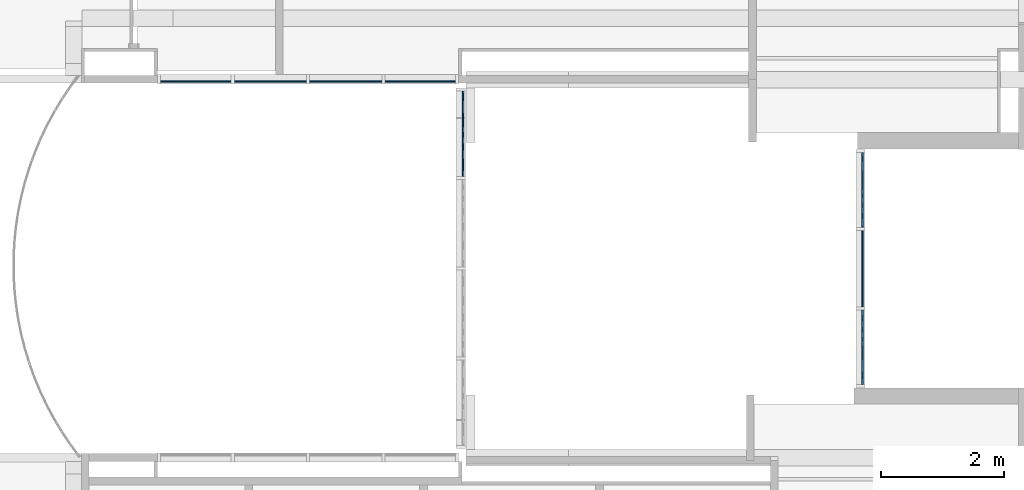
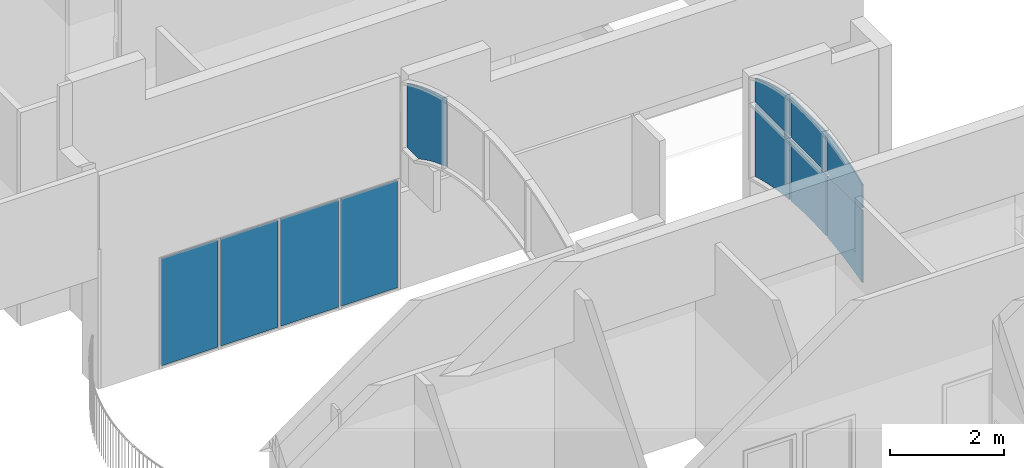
# One storey, part 5 of 47: 11 plates, 3 elements without a shape of their own.
"""IFC2X3 building model written with IfcOpenShell, lengths in metres."""

from ifc_helpers import new_model, entity, si_unit, converted_unit, frame, frame_2d, origin, origin_2d_with_axis, place, context, project, spatial, polyline, circle_curve, parameter, trimmed, segment, composite_curve, rectangle, outline, extrude, face_set, surface_model, source, transform, mapped, material, type_object, type_shapes, element, aggregate, save


model = new_model("IFC2X3")

# Units and contexts
model_context = context("Model", 3, precision=1e-09, world=origin())
plan_context = context("Plan", 3, precision=1e-09, world=origin())
ifc_project = project(units=[si_unit("LENGTHUNIT", "METRE"), si_unit("AREAUNIT", "SQUARE_METRE"), si_unit("VOLUMEUNIT", "CUBIC_METRE"), converted_unit("PLANEANGLEUNIT", "DEGREE", entity("IfcRatioMeasure", 0.01745329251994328), si_unit("PLANEANGLEUNIT", "RADIAN"), dimensions=[0, 0, 0, 0, 0, 0, 0]), si_unit("TIMEUNIT", "SECOND")], contexts=[model_context, plan_context])

# Site, building, storey
site_placement = place(None, origin())
site = spatial("IfcSite", under=ifc_project, at=site_placement, Name="Default", CompositionType="ELEMENT")
building_placement = place(site_placement, origin())
building = spatial("IfcBuilding", under=site, at=building_placement, CompositionType="ELEMENT")
storey_placement = place(building_placement, frame((0.0, 0.0, 4.570000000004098)))
storey = spatial("IfcBuildingStorey", under=building, at=storey_placement, Name="Second Floor", CompositionType="ELEMENT", Elevation=4.570000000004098)

# Curtain wall, plates
curtain_wall_1_placement = place(storey_placement, origin())
curtain_wall_1 = element("IfcCurtainWall", 1, at=curtain_wall_1_placement, inside=storey, Name="Curtain Wall:Storefront", ObjectType="Curtain Wall:Storefront")
ifc_material = material(Name="Glass")
plate_type_1 = type_object("IfcPlateType", Name="Glazed", PredefinedType="CURTAIN_PANEL")
shared_shape_1 = source(origin(), model_context, "Body", "SweptSolid", [
    extrude(rectangle(XDim=0.025, YDim=1.147693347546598, at=origin_2d_with_axis()), frame((0.0, 0.037, 0.0), z_axis=(0.0, 0.0, 1.0), x_axis=(0.0, 1.0, 0.0)), (0.0, 0.0, 1.0), 2.3),
])
type_shapes(plate_type_1, [shared_shape_1])
plate_1_placement = place(storey_placement, frame((-9.605573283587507, 34.7718015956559, 0.05), z_axis=(0.0, 0.0, 1.0), x_axis=(-1.0, 0.0, 0.0)))
plate_1 = element("IfcPlate", 2, at=plate_1_placement, type_object=plate_type_1, material=ifc_material, Name="System Panel:Glazed:Glazed", ObjectType="Glazed", context=model_context, shape_type="MappedRepresentation", body=[
    mapped(shared_shape_1, transform((0.0, 0.0, 0.0), scale=1.0)),
])
plate_2_placement = place(storey_placement, frame((-13.2486533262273, 34.77180159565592, 0.05), z_axis=(0.0, 0.0, 1.0), x_axis=(-1.0, 0.0, 0.0)))
plate_2 = element("IfcPlate", 3, at=plate_2_placement, type_object=plate_type_1, material=ifc_material, Name="System Panel:Glazed:Glazed", ObjectType="Glazed", context=model_context, shape_type="MappedRepresentation", body=[
    mapped(shared_shape_1, transform((0.0, 0.0, 0.0), scale=1.0)),
])
plate_type_2 = type_object("IfcPlateType", Name="Glazed", PredefinedType="CURTAIN_PANEL")
shared_shape_2 = source(origin(), model_context, "Body", "SweptSolid", [
    extrude(rectangle(XDim=0.025, YDim=1.172693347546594, at=origin_2d_with_axis()), frame((0.0, 0.037, 0.0), z_axis=(0.0, 0.0, 1.0), x_axis=(0.0, 1.0, 0.0)), (0.0, 0.0, 1.0), 2.3),
])
type_shapes(plate_type_2, [shared_shape_2])
plate_3_placement = place(storey_placement, frame((-10.8157666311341, 34.77180159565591, 0.05), z_axis=(0.0, 0.0, 1.0), x_axis=(-1.0, 0.0, 0.0)))
plate_3 = element("IfcPlate", 4, at=plate_3_placement, type_object=plate_type_2, material=ifc_material, Name="System Panel:Glazed:Glazed", ObjectType="Glazed", context=model_context, shape_type="MappedRepresentation", body=[
    mapped(shared_shape_2, transform((0.0, 0.0, 0.0), scale=1.0)),
])
plate_4_placement = place(storey_placement, frame((-12.0384599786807, 34.77180159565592, 0.05), z_axis=(0.0, 0.0, 1.0), x_axis=(-1.0, 0.0, 0.0)))
plate_4 = element("IfcPlate", 5, at=plate_4_placement, type_object=plate_type_2, material=ifc_material, Name="System Panel:Glazed:Glazed", ObjectType="Glazed", context=model_context, shape_type="MappedRepresentation", body=[
    mapped(shared_shape_2, transform((0.0, 0.0, 0.0), scale=1.0)),
])
aggregate(curtain_wall_1, [plate_1, plate_3, plate_4, plate_2])

curtain_wall_2_placement = place(storey_placement, origin())
curtain_wall_2 = element("IfcCurtainWall", 6, at=curtain_wall_2_placement, inside=storey, Name="Curtain Wall:Storefront", ObjectType="Curtain Wall:Storefront")
plate_type_3 = type_object("IfcPlateType", Name="Glazed", PredefinedType="CURTAIN_PANEL")
shared_shape_3 = source(origin(), model_context, "Body", "SweptSolid", [
    extrude(outline(composite_curve([segment(polyline([(-0.8340070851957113, -0.6075000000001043), (0.7188856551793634, -0.6075000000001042)]), True, "CONTINUOUS"), segment(polyline([(0.7188856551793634, -0.6075000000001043), (0.7188856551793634, 0.6075000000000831)]), True, "CONTINUOUS"), segment(polyline([(0.7188856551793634, 0.6075000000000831), (-0.60376422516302, 0.6075000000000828)]), True, "CONTINUOUS"), segment(trimmed(circle_curve(frame_2d((-7.460299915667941, 1.277499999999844), x_axis=(0.9591411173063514, -0.2829281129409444)), 6.889193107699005), [parameter(0.5554313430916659)], [parameter(10.85398953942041)], True, "PARAMETER"), False, "CONTINUOUS")], self_intersect=False)), frame((0.0, 0.02450000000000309, 0.8340070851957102), z_axis=(0.0, 1.0, 0.0), x_axis=(0.0, 0.0, 1.0)), (0.0, 0.0, 1.0), 0.025),
])
type_shapes(plate_type_3, [shared_shape_3])
plate_5_placement = place(storey_placement, frame((-2.454499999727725, 32.97249999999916, 0.8221072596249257), z_axis=(0.0, 0.0, 1.0), x_axis=(0.0, -1.0, 0.0)))
plate_5 = element("IfcPlate", 7, at=plate_5_placement, type_object=plate_type_3, material=ifc_material, Name="System Panel:Glazed:Glazed", ObjectType="Glazed", context=model_context, shape_type="MappedRepresentation", body=[
    mapped(shared_shape_3, transform((0.0, 0.0, 0.0), scale=1.0)),
])
plate_type_4 = type_object("IfcPlateType", Name="Glazed", PredefinedType="CURTAIN_PANEL")
shared_shape_4 = source(origin(), model_context, "Body", "SurfaceModel", [
    surface_model("IfcFaceBasedSurfaceModel", [(0.001595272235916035, 0.0, 0.001595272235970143), (0.001595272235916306, 0.0, 1.319543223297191), (1.241595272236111, 0.0, 1.319543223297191), (1.241595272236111, 0.0, 0.001595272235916), (0.9939177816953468, 0.0, 0.01948242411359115), (0.7457565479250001, 0.0, 0.02843181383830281), (0.4974339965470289, 0.0, 0.02843181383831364), (0.2492727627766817, 0.0, 0.01948242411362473), (0.001595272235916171, 0.025, 0.00159527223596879), (0.2492727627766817, 0.025, 0.01948242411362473), (0.4974339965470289, 0.025, 0.02843181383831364), (0.7457565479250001, 0.025, 0.02843181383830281), (0.9939177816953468, 0.025, 0.01948242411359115), (1.241595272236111, 0.025, 0.001595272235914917), (1.241595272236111, 0.025, 1.319543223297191), (0.001595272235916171, 0.025, 1.319543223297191)], [face_set([[[0, 1, 2, 3, 4, 5, 6, 7]], [[8, 9, 10, 11, 12, 13, 14, 15]], [[10, 6, 7, 9]], [[7, 0, 8, 9]], [[6, 10, 11, 5]], [[12, 4, 5, 11]], [[13, 3, 4, 12]], [[2, 3, 13, 14]], [[1, 15, 14, 2]], [[0, 8, 15, 1]]])]),
])
type_shapes(plate_type_4, [shared_shape_4])
plate_6_placement = place(storey_placement, frame((-2.429999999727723, 32.31659527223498, 1.055456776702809), z_axis=(0.0, 0.0, 1.0), x_axis=(0.0, -1.0, 0.0)))
plate_6 = element("IfcPlate", 8, at=plate_6_placement, type_object=plate_type_4, material=ifc_material, Name="System Panel:Glazed:Glazed", ObjectType="Glazed", context=model_context, shape_type="MappedRepresentation", body=[
    mapped(shared_shape_4, transform((0.0, 0.0, 0.0), scale=1.0)),
])
plate_type_5 = type_object("IfcPlateType", Name="Glazed", PredefinedType="CURTAIN_PANEL")
shared_shape_5 = source(origin(), model_context, "Body", "SweptSolid", [
    extrude(outline(composite_curve([segment(polyline([(-0.6037642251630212, -0.6075000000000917), (0.718885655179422, -0.6075000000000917)]), True, "CONTINUOUS"), segment(polyline([(0.718885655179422, -0.6075000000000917), (0.718885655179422, 0.6075000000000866)]), True, "CONTINUOUS"), segment(polyline([(0.718885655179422, 0.6075000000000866), (-0.8340070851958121, 0.6075000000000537)]), True, "CONTINUOUS"), segment(trimmed(circle_curve(frame_2d((-7.460299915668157, -1.277500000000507), x_axis=(0.9955429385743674, 0.09430937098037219)), 6.889193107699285), [parameter(0.169480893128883)], [parameter(10.46803908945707)], True, "PARAMETER"), False, "CONTINUOUS")], self_intersect=False)), frame((0.0, 0.02450000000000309, 0.8340070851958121), z_axis=(0.0, 1.0, 0.0), x_axis=(0.0, 0.0, 1.0)), (0.0, 0.0, 1.0), 0.025),
])
type_shapes(plate_type_5, [shared_shape_5])
plate_7_placement = place(storey_placement, frame((-2.454499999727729, 30.41749999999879, 0.8221072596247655), z_axis=(0.0, 0.0, 1.0), x_axis=(0.0, -1.0, 0.0)))
plate_7 = element("IfcPlate", 9, at=plate_7_placement, type_object=plate_type_5, material=ifc_material, Name="System Panel:Glazed:Glazed", ObjectType="Glazed", context=model_context, shape_type="MappedRepresentation", body=[
    mapped(shared_shape_5, transform((0.0, 0.0, 0.0), scale=1.0)),
])
plate_type_6 = type_object("IfcPlateType", Name="Glazed", PredefinedType="CURTAIN_PANEL")
shared_shape_6 = source(origin(), model_context, "Body", "SweptSolid", [
    extrude(outline(composite_curve([segment(polyline([(-0.341940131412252, -0.6075000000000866), (0.1648175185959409, -0.6075000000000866)]), True, "CONTINUOUS"), segment(trimmed(circle_curve(frame_2d((-4.039664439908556, 1.277500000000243), x_axis=(0.9903651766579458, -0.1384803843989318)), 4.607699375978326), [parameter(343.811745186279)], [parameter(359.5989700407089)], True, "PARAMETER"), True, "CONTINUOUS"), segment(polyline([(0.5190627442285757, 0.6075000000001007), (-0.341940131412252, 0.6075000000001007)]), True, "CONTINUOUS"), segment(polyline([(-0.341940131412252, 0.6075000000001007), (-0.341940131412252, -0.6075000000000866)]), True, "CONTINUOUS")], self_intersect=False)), frame((0.0, 0.02449999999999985, 0.341940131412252), z_axis=(0.0, 1.0, 0.0), x_axis=(0.0, 0.0, 1.0)), (0.0, 0.0, 1.0), 0.025),
])
type_shapes(plate_type_6, [shared_shape_6])
plate_8_placement = place(storey_placement, frame((-2.454499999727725, 32.97249999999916, 2.424999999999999), z_axis=(0.0, 0.0, 1.0), x_axis=(0.0, -1.0, 0.0)))
plate_8 = element("IfcPlate", 10, at=plate_8_placement, type_object=plate_type_6, material=ifc_material, Name="System Panel:Glazed:Glazed", ObjectType="Glazed", context=model_context, shape_type="MappedRepresentation", body=[
    mapped(shared_shape_6, transform((0.0, 0.0, 0.0), scale=1.0)),
])
plate_type_7 = type_object("IfcPlateType", Name="Glazed", PredefinedType="CURTAIN_PANEL")
shared_shape_7 = source(origin(), model_context, "Body", "SweptSolid", [
    extrude(rectangle(XDim=0.8680717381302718, YDim=0.025, at=frame_2d((0.0, 0.0), x_axis=(0.0, 1.0))), frame((-0.6200000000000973, 0.03699999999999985, 0.4340358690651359), z_axis=(1.0, 0.0, 0.0), x_axis=(0.0, 1.0, 0.0)), (0.0, 0.0, 1.0), 1.240000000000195),
])
type_shapes(plate_type_7, [shared_shape_7])
plate_9_placement = place(storey_placement, frame((-2.454499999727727, 31.69499999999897, 2.424999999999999), z_axis=(0.0, 0.0, 1.0), x_axis=(0.0, -1.0, 0.0)))
plate_9 = element("IfcPlate", 11, at=plate_9_placement, type_object=plate_type_7, material=ifc_material, Name="System Panel:Glazed:Glazed", ObjectType="Glazed", context=model_context, shape_type="MappedRepresentation", body=[
    mapped(shared_shape_7, transform((0.0, 0.0, 0.0), scale=1.0)),
])
plate_type_8 = type_object("IfcPlateType", Name="Glazed", PredefinedType="CURTAIN_PANEL")
shared_shape_8 = source(origin(), model_context, "Body", "SweptSolid", [
    extrude(outline(composite_curve([segment(polyline([(-0.3419401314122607, 0.6075000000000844), (-0.3419401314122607, -0.6075000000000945)]), True, "CONTINUOUS"), segment(polyline([(-0.3419401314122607, -0.6075000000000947), (0.1648175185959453, -0.6075000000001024)]), True, "CONTINUOUS"), segment(trimmed(circle_curve(frame_2d((-4.039664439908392, 1.277500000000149), x_axis=(0.9096200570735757, -0.4154411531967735)), 4.607699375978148), [parameter(0.3989240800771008)], [parameter(16.18614893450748)], True, "PARAMETER"), True, "CONTINUOUS"), segment(polyline([(0.5190627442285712, 0.6075000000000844), (-0.3419401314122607, 0.6075000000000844)]), True, "CONTINUOUS")], self_intersect=False)), frame((0.0, 0.02449999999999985, 0.3419401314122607), z_axis=(0.0, -1.0, 0.0), x_axis=(0.0, 0.0, 1.0)), (0.0, 0.0, -1.0), 0.025),
])
type_shapes(plate_type_8, [shared_shape_8])
plate_10_placement = place(storey_placement, frame((-2.454499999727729, 30.41749999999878, 2.424999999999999), z_axis=(0.0, 0.0, 1.0), x_axis=(0.0, -1.0, 0.0)))
plate_10 = element("IfcPlate", 12, at=plate_10_placement, type_object=plate_type_8, material=ifc_material, Name="System Panel:Glazed:Glazed", ObjectType="Glazed", context=model_context, shape_type="MappedRepresentation", body=[
    mapped(shared_shape_8, transform((0.0, 0.0, 0.0), scale=1.0)),
])
aggregate(curtain_wall_2, [plate_5, plate_6, plate_7, plate_8, plate_9, plate_10])

# Curtain wall, plate
curtain_wall_3_placement = place(storey_placement, origin())
curtain_wall_3 = element("IfcCurtainWall", 13, at=curtain_wall_3_placement, inside=storey, Name="Curtain Wall:Storefront", ObjectType="Curtain Wall:Storefront")
plate_type_9 = type_object("IfcPlateType", Name="Glazed", PredefinedType="CURTAIN_PANEL")
shared_shape_9 = source(origin(), model_context, "Body", "SweptSolid", [
    extrude(outline(composite_curve([segment(polyline([(-0.7322350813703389, -0.6419297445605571), (0.6361005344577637, -0.6419297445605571)]), True, "CONTINUOUS"), segment(trimmed(circle_curve(frame_2d((-5.102262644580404, 2.248020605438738), x_axis=(0.9737099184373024, -0.2277915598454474)), 6.425000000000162), [parameter(346.4363798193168)], [parameter(359.6665005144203)], True, "PARAMETER"), True, "CONTINUOUS"), segment(polyline([(1.145198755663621, 0.7480702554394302), (-0.3168291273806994, 0.7480702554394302)]), True, "CONTINUOUS"), segment(trimmed(circle_curve(frame_2d((-5.102262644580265, 2.248020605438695), x_axis=(0.8700961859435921, -0.4928819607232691)), 5.014999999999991), [parameter(0.15090790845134)], [parameter(12.12705890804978)], True, "PARAMETER"), False, "CONTINUOUS"), segment(polyline([(-0.7322350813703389, -0.21228102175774), (-0.7322350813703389, -0.6419297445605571)]), True, "CONTINUOUS")], self_intersect=False)), frame((-0.05307025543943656, 0.02449999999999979, 0.7322350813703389), z_axis=(0.0, 1.0, 0.0), x_axis=(0.0, 0.0, 1.0)), (0.0, 0.0, 1.0), 0.025),
])
type_shapes(plate_type_9, [shared_shape_9])
plate_11_placement = place(storey_placement, frame((-8.945999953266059, 33.88499999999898, 3.12), z_axis=(0.0, 0.0, 1.0), x_axis=(0.0, -1.0, 0.0)))
plate_11 = element("IfcPlate", 14, at=plate_11_placement, type_object=plate_type_9, material=ifc_material, Name="System Panel:Glazed:Glazed", ObjectType="Glazed", context=model_context, shape_type="MappedRepresentation", body=[
    mapped(shared_shape_9, transform((0.0, 0.0, 0.0), scale=1.0)),
])
aggregate(curtain_wall_3, [plate_11])

save(model, "model.ifc")
